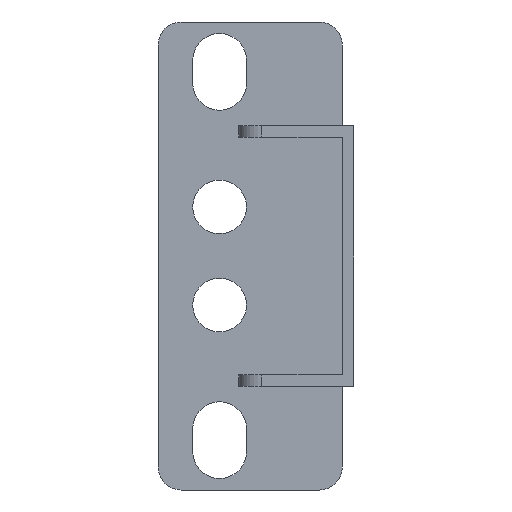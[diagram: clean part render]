
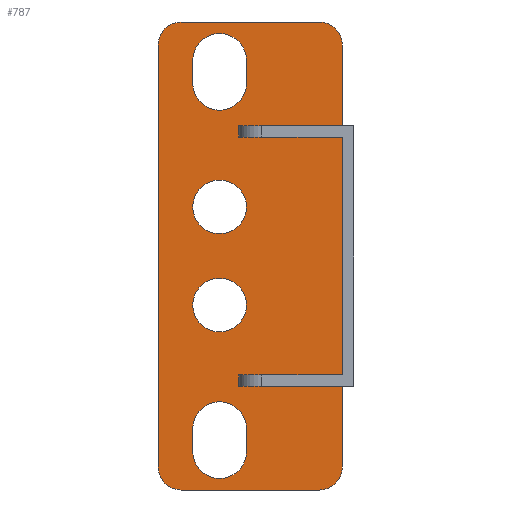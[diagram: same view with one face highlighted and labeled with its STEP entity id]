
A CAD part, front view. The second image highlights one B-rep face of the part: STEP entity #787.
In plain terms, the highlighted planar face has unit normal (0, -1, 0).
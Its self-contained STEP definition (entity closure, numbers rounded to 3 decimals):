
#50=CIRCLE('',#857,3.);
#51=CIRCLE('',#858,3.);
#52=CIRCLE('',#859,3.);
#53=CIRCLE('',#860,3.);
#54=CIRCLE('',#861,3.5);
#55=CIRCLE('',#862,3.5);
#56=CIRCLE('',#863,3.5);
#57=CIRCLE('',#864,3.5);
#58=CIRCLE('',#865,3.5);
#59=CIRCLE('',#866,3.5);
#112=ORIENTED_EDGE('',*,*,#339,.F.);
#113=ORIENTED_EDGE('',*,*,#310,.T.);
#114=ORIENTED_EDGE('',*,*,#340,.F.);
#115=ORIENTED_EDGE('',*,*,#341,.T.);
#116=ORIENTED_EDGE('',*,*,#342,.F.);
#117=ORIENTED_EDGE('',*,*,#343,.T.);
#118=ORIENTED_EDGE('',*,*,#344,.F.);
#119=ORIENTED_EDGE('',*,*,#345,.T.);
#120=ORIENTED_EDGE('',*,*,#346,.F.);
#121=ORIENTED_EDGE('',*,*,#347,.T.);
#122=ORIENTED_EDGE('',*,*,#348,.T.);
#123=ORIENTED_EDGE('',*,*,#349,.T.);
#124=ORIENTED_EDGE('',*,*,#350,.T.);
#125=ORIENTED_EDGE('',*,*,#351,.T.);
#126=ORIENTED_EDGE('',*,*,#352,.T.);
#127=ORIENTED_EDGE('',*,*,#353,.T.);
#128=ORIENTED_EDGE('',*,*,#354,.T.);
#129=ORIENTED_EDGE('',*,*,#355,.T.);
#130=ORIENTED_EDGE('',*,*,#356,.T.);
#131=ORIENTED_EDGE('',*,*,#357,.T.);
#310=EDGE_CURVE('',#425,#424,#498,.T.);
#339=EDGE_CURVE('',#425,#452,#515,.T.);
#340=EDGE_CURVE('',#453,#424,#516,.T.);
#341=EDGE_CURVE('',#453,#454,#50,.F.);
#342=EDGE_CURVE('',#455,#454,#517,.T.);
#343=EDGE_CURVE('',#455,#456,#51,.F.);
#344=EDGE_CURVE('',#457,#456,#518,.T.);
#345=EDGE_CURVE('',#457,#458,#52,.F.);
#346=EDGE_CURVE('',#459,#458,#519,.T.);
#347=EDGE_CURVE('',#459,#452,#53,.F.);
#348=EDGE_CURVE('',#460,#461,#520,.T.);
#349=EDGE_CURVE('',#461,#462,#54,.T.);
#350=EDGE_CURVE('',#462,#463,#521,.T.);
#351=EDGE_CURVE('',#463,#460,#55,.T.);
#352=EDGE_CURVE('',#464,#464,#56,.T.);
#353=EDGE_CURVE('',#465,#465,#57,.T.);
#354=EDGE_CURVE('',#466,#467,#58,.T.);
#355=EDGE_CURVE('',#467,#468,#522,.T.);
#356=EDGE_CURVE('',#468,#469,#59,.T.);
#357=EDGE_CURVE('',#469,#466,#523,.T.);
#424=VERTEX_POINT('',#1176);
#425=VERTEX_POINT('',#1178);
#452=VERTEX_POINT('',#1236);
#453=VERTEX_POINT('',#1238);
#454=VERTEX_POINT('',#1240);
#455=VERTEX_POINT('',#1242);
#456=VERTEX_POINT('',#1244);
#457=VERTEX_POINT('',#1246);
#458=VERTEX_POINT('',#1248);
#459=VERTEX_POINT('',#1250);
#460=VERTEX_POINT('',#1253);
#461=VERTEX_POINT('',#1254);
#462=VERTEX_POINT('',#1256);
#463=VERTEX_POINT('',#1258);
#464=VERTEX_POINT('',#1261);
#465=VERTEX_POINT('',#1263);
#466=VERTEX_POINT('',#1265);
#467=VERTEX_POINT('',#1266);
#468=VERTEX_POINT('',#1268);
#469=VERTEX_POINT('',#1270);
#498=LINE('',#1177,#580);
#515=LINE('',#1235,#597);
#516=LINE('',#1237,#598);
#517=LINE('',#1241,#599);
#518=LINE('',#1245,#600);
#519=LINE('',#1249,#601);
#520=LINE('',#1252,#602);
#521=LINE('',#1257,#603);
#522=LINE('',#1267,#604);
#523=LINE('',#1271,#605);
#580=VECTOR('',#935,1000.);
#597=VECTOR('',#980,1000.);
#598=VECTOR('',#981,1000.);
#599=VECTOR('',#984,1000.);
#600=VECTOR('',#987,1000.);
#601=VECTOR('',#990,1000.);
#602=VECTOR('',#993,1000.);
#603=VECTOR('',#996,1000.);
#604=VECTOR('',#1005,1000.);
#605=VECTOR('',#1008,1000.);
#659=EDGE_LOOP('',(#112,#113,#114,#115,#116,#117,#118,#119,#120,#121));
#660=EDGE_LOOP('',(#122,#123,#124,#125));
#661=EDGE_LOOP('',(#126));
#662=EDGE_LOOP('',(#127));
#663=EDGE_LOOP('',(#128,#129,#130,#131));
#713=FACE_BOUND('',#659,.T.);
#714=FACE_BOUND('',#660,.T.);
#715=FACE_BOUND('',#661,.T.);
#716=FACE_BOUND('',#662,.T.);
#717=FACE_BOUND('',#663,.T.);
#761=PLANE('',#856);
#787=ADVANCED_FACE('',(#713,#714,#715,#716,#717),#761,.F.);
#856=AXIS2_PLACEMENT_3D('',#1234,#978,#979);
#857=AXIS2_PLACEMENT_3D('',#1239,#982,#983);
#858=AXIS2_PLACEMENT_3D('',#1243,#985,#986);
#859=AXIS2_PLACEMENT_3D('',#1247,#988,#989);
#860=AXIS2_PLACEMENT_3D('',#1251,#991,#992);
#861=AXIS2_PLACEMENT_3D('',#1255,#994,#995);
#862=AXIS2_PLACEMENT_3D('',#1259,#997,#998);
#863=AXIS2_PLACEMENT_3D('',#1260,#999,#1000);
#864=AXIS2_PLACEMENT_3D('',#1262,#1001,#1002);
#865=AXIS2_PLACEMENT_3D('',#1264,#1003,#1004);
#866=AXIS2_PLACEMENT_3D('',#1269,#1006,#1007);
#935=DIRECTION('',(0.,0.,1.));
#978=DIRECTION('',(0.,1.,0.));
#979=DIRECTION('',(0.,0.,1.));
#980=DIRECTION('',(0.,0.,-1.));
#981=DIRECTION('',(0.,0.,-1.));
#982=DIRECTION('',(0.,1.,0.));
#983=DIRECTION('',(0.,0.,1.));
#984=DIRECTION('',(1.,0.,0.));
#985=DIRECTION('',(0.,1.,0.));
#986=DIRECTION('',(0.,0.,1.));
#987=DIRECTION('',(0.,0.,1.));
#988=DIRECTION('',(0.,1.,0.));
#989=DIRECTION('',(0.,0.,1.));
#990=DIRECTION('',(-1.,0.,0.));
#991=DIRECTION('',(0.,1.,0.));
#992=DIRECTION('',(0.,0.,1.));
#993=DIRECTION('',(0.,0.,1.));
#994=DIRECTION('',(0.,1.,0.));
#995=DIRECTION('',(-1.,0.,0.));
#996=DIRECTION('',(0.,0.,-1.));
#997=DIRECTION('',(0.,1.,0.));
#998=DIRECTION('',(1.,0.,0.));
#999=DIRECTION('',(0.,1.,0.));
#1000=DIRECTION('',(1.,0.,0.));
#1001=DIRECTION('',(0.,1.,0.));
#1002=DIRECTION('',(1.,0.,0.));
#1003=DIRECTION('',(0.,1.,0.));
#1004=DIRECTION('',(1.,0.,0.));
#1005=DIRECTION('',(0.,0.,1.));
#1006=DIRECTION('',(0.,1.,0.));
#1007=DIRECTION('',(-1.,0.,0.));
#1008=DIRECTION('',(0.,0.,-1.));
#1176=CARTESIAN_POINT('',(12.,0.,15.5));
#1177=CARTESIAN_POINT('',(12.,0.,0.));
#1178=CARTESIAN_POINT('',(12.,0.,-15.5));
#1234=CARTESIAN_POINT('',(0.,0.,0.));
#1235=CARTESIAN_POINT('',(12.,0.,30.5));
#1236=CARTESIAN_POINT('',(12.,0.,-27.5));
#1237=CARTESIAN_POINT('',(12.,0.,30.5));
#1238=CARTESIAN_POINT('',(12.,0.,27.5));
#1239=CARTESIAN_POINT('',(9.,0.,27.5));
#1240=CARTESIAN_POINT('',(9.,0.,30.5));
#1241=CARTESIAN_POINT('',(-12.,0.,30.5));
#1242=CARTESIAN_POINT('',(-9.,0.,30.5));
#1243=CARTESIAN_POINT('',(-9.,0.,27.5));
#1244=CARTESIAN_POINT('',(-12.,0.,27.5));
#1245=CARTESIAN_POINT('',(-12.,0.,-30.5));
#1246=CARTESIAN_POINT('',(-12.,0.,-27.5));
#1247=CARTESIAN_POINT('',(-9.,0.,-27.5));
#1248=CARTESIAN_POINT('',(-9.,0.,-30.5));
#1249=CARTESIAN_POINT('',(12.,0.,-30.5));
#1250=CARTESIAN_POINT('',(9.,0.,-30.5));
#1251=CARTESIAN_POINT('',(9.,0.,-27.5));
#1252=CARTESIAN_POINT('',(-7.5,0.,-25.5));
#1253=CARTESIAN_POINT('',(-7.5,0.,-25.5));
#1254=CARTESIAN_POINT('',(-7.5,0.,-22.5));
#1255=CARTESIAN_POINT('',(-4.,0.,-22.5));
#1256=CARTESIAN_POINT('',(-0.5,0.,-22.5));
#1257=CARTESIAN_POINT('',(-0.5,0.,-22.5));
#1258=CARTESIAN_POINT('',(-0.5,0.,-25.5));
#1259=CARTESIAN_POINT('',(-4.,0.,-25.5));
#1260=CARTESIAN_POINT('',(-4.,0.,-6.4));
#1261=CARTESIAN_POINT('',(-0.5,0.,-6.4));
#1262=CARTESIAN_POINT('',(-4.,0.,6.4));
#1263=CARTESIAN_POINT('',(-0.5,0.,6.4));
#1264=CARTESIAN_POINT('',(-4.,0.,22.5));
#1265=CARTESIAN_POINT('',(-0.5,0.,22.5));
#1266=CARTESIAN_POINT('',(-7.5,0.,22.5));
#1267=CARTESIAN_POINT('',(-7.5,0.,22.5));
#1268=CARTESIAN_POINT('',(-7.5,0.,25.5));
#1269=CARTESIAN_POINT('',(-4.,0.,25.5));
#1270=CARTESIAN_POINT('',(-0.5,0.,25.5));
#1271=CARTESIAN_POINT('',(-0.5,0.,22.5));
